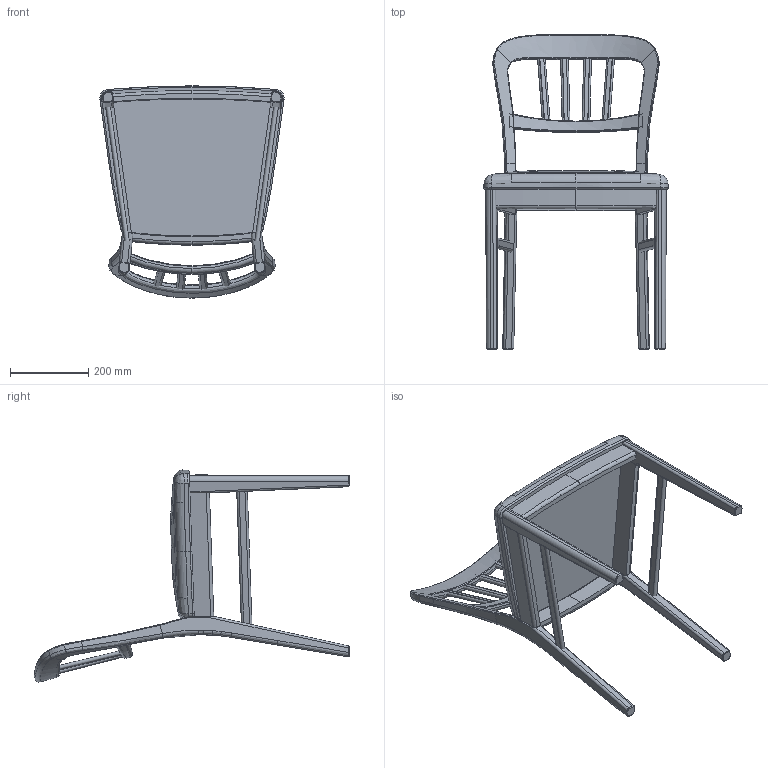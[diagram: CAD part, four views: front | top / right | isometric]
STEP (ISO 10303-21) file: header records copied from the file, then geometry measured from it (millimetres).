
FILE_DESCRIPTION (( 'STEP AP214' ), '1' );
FILE_NAME ('A僠僃傾乕CG.STEP', '2026-03-21T04:45:13', ( '' ), ( '' ), 'SwSTEP 2.0', 'SolidWorks 2025', '' );
FILE_SCHEMA (( 'AUTOMOTIVE_DESIGN' ));
Length unit declared in the file: millimetre
Products named in the file (1): AチェアーCG
Bounding box: 471.38 x 806.75 x 542.62 mm (x, y, z)
Volume: 11650234.8 mm3; surface area: 1022586.2 mm2
Topology: 17 solids, 17 shells, 376 faces, 890 edges, 540 vertices
Faces by surface type: plane 109, cylinder 105, bspline 98, torus 46, cone 18
Entity records: 18241 total; most frequent: CARTESIAN_POINT 10269, ORIENTED_EDGE 1764, DIRECTION 1428, EDGE_CURVE 882, AXIS2_PLACEMENT_3D 560, VERTEX_POINT 540, EDGE_LOOP 376, FACE_OUTER_BOUND 376
